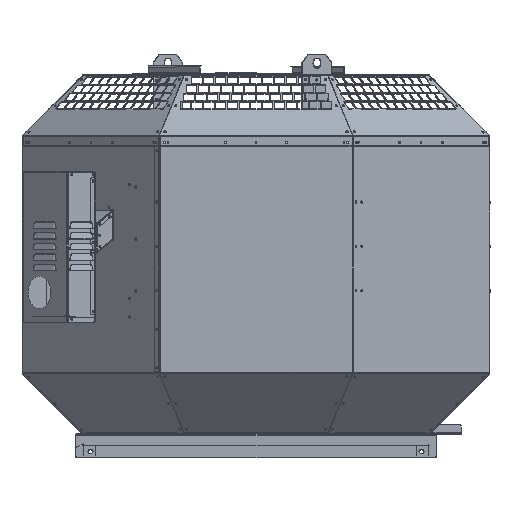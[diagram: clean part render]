
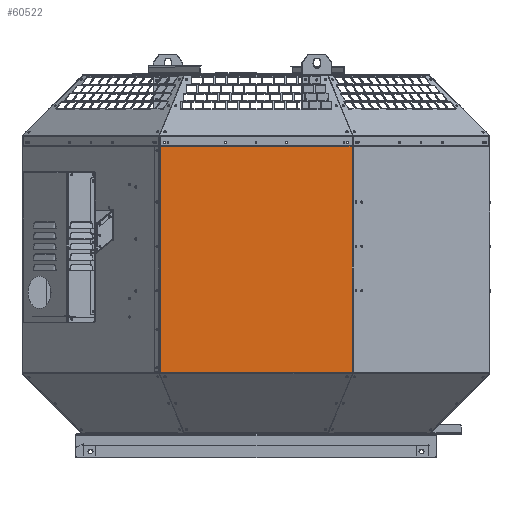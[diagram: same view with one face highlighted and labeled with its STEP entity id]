
A CAD part, top view. The second image highlights one B-rep face of the part: STEP entity #60522.
In plain terms, the highlighted planar face has unit normal (0, 0, 1).
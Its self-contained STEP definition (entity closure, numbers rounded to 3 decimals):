
#420 = EDGE_CURVE ( 'NONE', #35069, #67384, #114845, .T. ) ;
#4297 = DIRECTION ( 'NONE',  ( 0., -1., 0. ) ) ;
#11628 = EDGE_CURVE ( 'NONE', #70001, #91092, #103866, .T. ) ;
#13763 = CARTESIAN_POINT ( 'NONE',  ( -183.896, 573.321, 451. ) ) ;
#13996 = VECTOR ( 'NONE', #62533, 1000. ) ;
#16802 = CARTESIAN_POINT ( 'NONE',  ( 185.035, 594.314, 451. ) ) ;
#17542 = CARTESIAN_POINT ( 'NONE',  ( -184.596, 137.814, 451. ) ) ;
#22660 = ORIENTED_EDGE ( 'NONE', *, *, #86135, .F. ) ;
#25389 = CARTESIAN_POINT ( 'NONE',  ( -186.396, 138.814, 451. ) ) ;
#28207 = ORIENTED_EDGE ( 'NONE', *, *, #109452, .T. ) ;
#29301 = EDGE_CURVE ( 'NONE', #102376, #89264, #115809, .T. ) ;
#33189 = CARTESIAN_POINT ( 'NONE',  ( 186.396, 573.321, 451. ) ) ;
#33310 = CARTESIAN_POINT ( 'NONE',  ( -183.971, 573.321, 451. ) ) ;
#35069 = VERTEX_POINT ( 'NONE', #52654 ) ;
#35503 = CARTESIAN_POINT ( 'NONE',  ( 186.396, 573.321, 451. ) ) ;
#37459 = DIRECTION ( 'NONE',  ( 1., 0., 0. ) ) ;
#42717 = VERTEX_POINT ( 'NONE', #77720 ) ;
#43971 = DIRECTION ( 'NONE',  ( 0.573, 0.819, 0. ) ) ;
#44602 = DIRECTION ( 'NONE',  ( 0., 1., 0. ) ) ;
#44742 = DIRECTION ( 'NONE',  ( 1., 0., 0. ) ) ;
#51223 = VERTEX_POINT ( 'NONE', #13763 ) ;
#52654 = CARTESIAN_POINT ( 'NONE',  ( -183.971, 573.321, 451. ) ) ;
#52865 = VECTOR ( 'NONE', #44602, 1000. ) ;
#55362 = CARTESIAN_POINT ( 'NONE',  ( -183.971, 138.814, 451. ) ) ;
#55543 = PLANE ( 'NONE',  #95136 ) ;
#55746 = LINE ( 'NONE', #16802, #52865 ) ;
#55828 = LINE ( 'NONE', #62687, #77480 ) ;
#58313 = EDGE_LOOP ( 'NONE', ( #97585, #76598, #104450, #94414, #22660, #67425, #28207, #86570, #116529 ) ) ;
#60522 = ADVANCED_FACE ( 'NONE', ( #98327 ), #55543, .T. ) ;
#60684 = CARTESIAN_POINT ( 'NONE',  ( 185.485, 573.314, 451. ) ) ;
#62533 = DIRECTION ( 'NONE',  ( -1., 0., 0. ) ) ;
#62687 = CARTESIAN_POINT ( 'NONE',  ( 188.035, 573.314, 451. ) ) ;
#64454 = VECTOR ( 'NONE', #44742, 1000. ) ;
#64969 = VECTOR ( 'NONE', #98373, 1000. ) ;
#65796 = VECTOR ( 'NONE', #4297, 1000. ) ;
#67384 = VERTEX_POINT ( 'NONE', #55362 ) ;
#67425 = ORIENTED_EDGE ( 'NONE', *, *, #29301, .F. ) ;
#67867 = LINE ( 'NONE', #33189, #64969 ) ;
#70001 = VERTEX_POINT ( 'NONE', #17542 ) ;
#71984 = DIRECTION ( 'NONE',  ( -1., 0., 0. ) ) ;
#74167 = CARTESIAN_POINT ( 'NONE',  ( 186.396, 594.314, 451. ) ) ;
#75347 = VERTEX_POINT ( 'NONE', #78165 ) ;
#76598 = ORIENTED_EDGE ( 'NONE', *, *, #420, .T. ) ;
#77480 = VECTOR ( 'NONE', #71984, 1000. ) ;
#77720 = CARTESIAN_POINT ( 'NONE',  ( 185.035, 573.321, 451. ) ) ;
#78165 = CARTESIAN_POINT ( 'NONE',  ( 185.035, 573.314, 451. ) ) ;
#78603 = LINE ( 'NONE', #90755, #100222 ) ;
#80653 = EDGE_CURVE ( 'NONE', #35069, #51223, #67867, .T. ) ;
#86135 = EDGE_CURVE ( 'NONE', #89264, #70001, #78603, .T. ) ;
#86570 = ORIENTED_EDGE ( 'NONE', *, *, #118660, .T. ) ;
#89264 = VERTEX_POINT ( 'NONE', #107948 ) ;
#89873 = CARTESIAN_POINT ( 'NONE',  ( -183.896, 138.814, 451. ) ) ;
#90341 = CARTESIAN_POINT ( 'NONE',  ( 185.485, 594.314, 451. ) ) ;
#90755 = CARTESIAN_POINT ( 'NONE',  ( 186.396, 137.814, 451. ) ) ;
#91092 = VERTEX_POINT ( 'NONE', #108035 ) ;
#91157 = EDGE_CURVE ( 'NONE', #91092, #67384, #112036, .T. ) ;
#91235 = VECTOR ( 'NONE', #108880, 1000. ) ;
#92618 = DIRECTION ( 'NONE',  ( 0., 0., 1. ) ) ;
#94414 = ORIENTED_EDGE ( 'NONE', *, *, #11628, .F. ) ;
#95136 = AXIS2_PLACEMENT_3D ( 'NONE', #74167, #92618, #37459 ) ;
#97585 = ORIENTED_EDGE ( 'NONE', *, *, #80653, .F. ) ;
#98327 = FACE_OUTER_BOUND ( 'NONE', #58313, .T. ) ;
#98373 = DIRECTION ( 'NONE',  ( 1., 0., 0. ) ) ;
#100041 = DIRECTION ( 'NONE',  ( -1., 0., 0. ) ) ;
#100222 = VECTOR ( 'NONE', #100041, 1000. ) ;
#101014 = VECTOR ( 'NONE', #43971, 1000. ) ;
#102376 = VERTEX_POINT ( 'NONE', #60684 ) ;
#103866 = LINE ( 'NONE', #89873, #101014 ) ;
#104212 = EDGE_CURVE ( 'NONE', #51223, #42717, #113461, .T. ) ;
#104450 = ORIENTED_EDGE ( 'NONE', *, *, #91157, .F. ) ;
#107948 = CARTESIAN_POINT ( 'NONE',  ( 185.485, 137.814, 451. ) ) ;
#108035 = CARTESIAN_POINT ( 'NONE',  ( -183.896, 138.814, 451. ) ) ;
#108880 = DIRECTION ( 'NONE',  ( 0., -1., 0. ) ) ;
#109452 = EDGE_CURVE ( 'NONE', #102376, #75347, #55828, .T. ) ;
#112036 = LINE ( 'NONE', #25389, #13996 ) ;
#113461 = LINE ( 'NONE', #35503, #64454 ) ;
#114845 = LINE ( 'NONE', #33310, #65796 ) ;
#115809 = LINE ( 'NONE', #90341, #91235 ) ;
#116529 = ORIENTED_EDGE ( 'NONE', *, *, #104212, .F. ) ;
#118660 = EDGE_CURVE ( 'NONE', #75347, #42717, #55746, .T. ) ;
